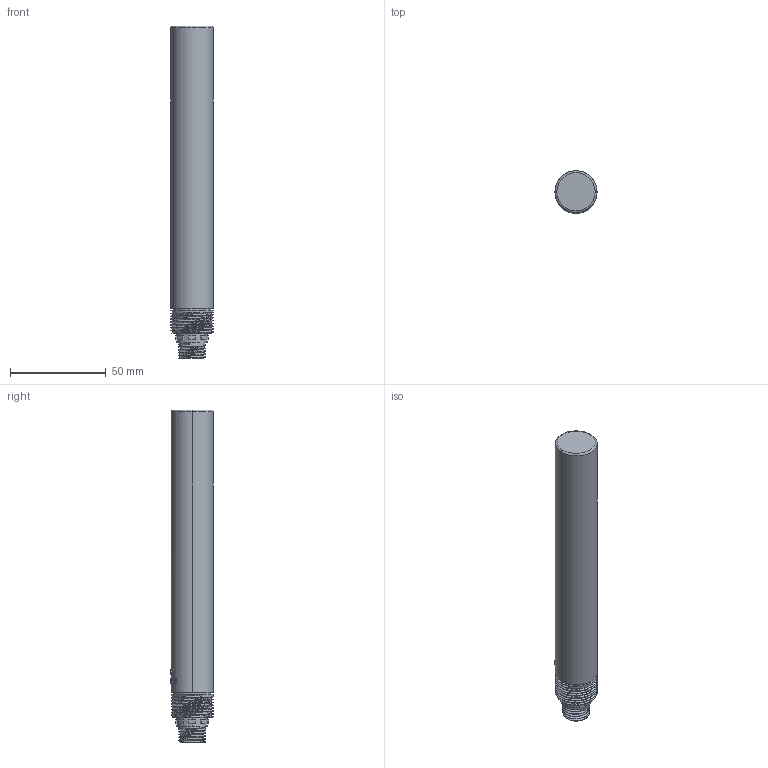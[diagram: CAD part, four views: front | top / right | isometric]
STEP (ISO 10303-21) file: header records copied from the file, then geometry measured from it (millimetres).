
FILE_DESCRIPTION((''),'2;1');
FILE_NAME('ASM0005_ASM','2025-12-29T08:41:58',('28740194'),(''),'CREO PARAMETRIC BY PTC INC, 2024063','CREO PARAMETRIC BY PTC INC, 2024063','');
FILE_SCHEMA(('CONFIG_CONTROL_DESIGN'));
Length unit declared in the file: millimetre
Products named in the file (3): KWS-1001; 0001; ASM0005_ASM
Assembly tree (2 placements, depth 2):
  ASM0005_ASM
    KWS-1001
    0001
Bounding box: 22 x 22.14 x 173.5 mm (x, y, z)
Volume: 62111.4 mm3; surface area: 13958.9 mm2
Topology: 2 solids, 2 shells, 443 faces, 1218 edges, 810 vertices
Faces by surface type: bspline 236, plane 148, cylinder 57, torus 2
Entity records: 22152 total; most frequent: CARTESIAN_POINT 12250, ORIENTED_EDGE 2436, DIRECTION 1344, EDGE_CURVE 1218, VERTEX_POINT 810, VECTOR 580, LINE 580, EDGE_LOOP 474
